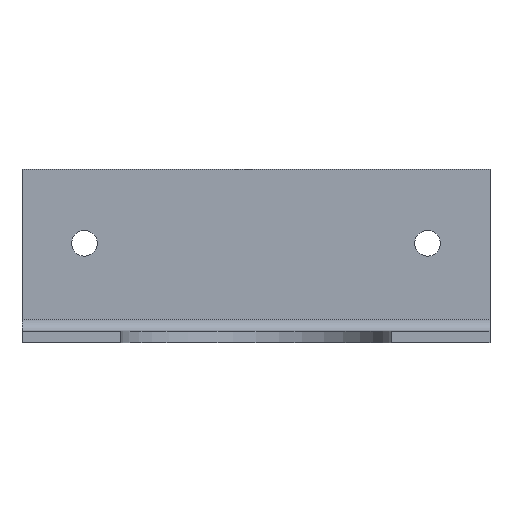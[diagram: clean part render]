
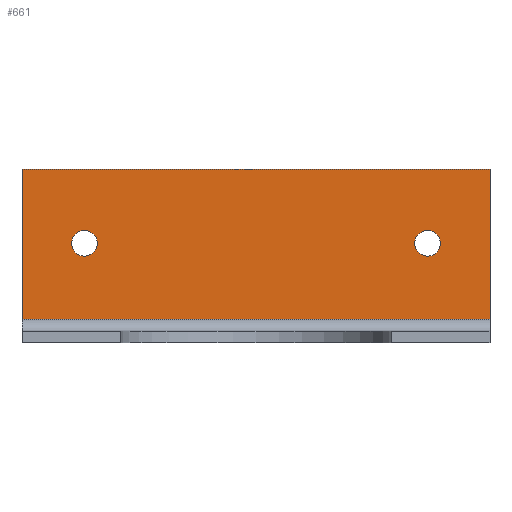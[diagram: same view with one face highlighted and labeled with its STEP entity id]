
A CAD part, front view. The second image highlights one B-rep face of the part: STEP entity #661.
In plain terms, the highlighted planar face has unit normal (0, -1, 0).
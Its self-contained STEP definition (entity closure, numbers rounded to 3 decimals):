
#473=CARTESIAN_POINT('',(47.3,61.5,25.5));
#474=VERTEX_POINT('',#473);
#475=CARTESIAN_POINT('',(44.0,61.5,25.5));
#476=DIRECTION('',(0.0,1.0,0.0));
#477=DIRECTION('',(-1.0,0.0,0.0));
#478=AXIS2_PLACEMENT_3D('',#475,#476,#477);
#479=CIRCLE('',#478,3.3);
#480=EDGE_CURVE('',#474,#474,#479,.T.);
#501=CARTESIAN_POINT('',(-40.7,61.5,25.5));
#502=VERTEX_POINT('',#501);
#503=CARTESIAN_POINT('',(-44.0,61.5,25.5));
#504=DIRECTION('',(0.0,1.0,0.0));
#505=DIRECTION('',(-1.0,0.0,0.0));
#506=AXIS2_PLACEMENT_3D('',#503,#504,#505);
#507=CIRCLE('',#506,3.3);
#508=EDGE_CURVE('',#502,#502,#507,.T.);
#564=CARTESIAN_POINT('',(-60.0,61.5,44.5));
#565=VERTEX_POINT('',#564);
#566=CARTESIAN_POINT('',(-60.0,61.5,6.));
#567=VERTEX_POINT('',#566);
#568=CARTESIAN_POINT('',(-60.0,61.5,44.5));
#569=DIRECTION('',(0.0,0.0,-1.0));
#570=VECTOR('',#569,38.5);
#571=LINE('',#568,#570);
#572=EDGE_CURVE('',#565,#567,#571,.T.);
#614=CARTESIAN_POINT('',(60.0,61.5,44.5));
#615=VERTEX_POINT('',#614);
#616=CARTESIAN_POINT('',(60.0,61.5,44.5));
#617=DIRECTION('',(-1.0,0.0,0.0));
#618=VECTOR('',#617,120.0);
#619=LINE('',#616,#618);
#620=EDGE_CURVE('',#615,#565,#619,.T.);
#632=CARTESIAN_POINT('',(60.0,61.5,44.5));
#633=DIRECTION('',(0.0,-1.0,0.0));
#634=DIRECTION('',(0.0,0.0,-1.0));
#635=AXIS2_PLACEMENT_3D('',#632,#633,#634);
#636=PLANE('',#635);
#637=CARTESIAN_POINT('',(60.0,61.5,6.));
#638=VERTEX_POINT('',#637);
#639=CARTESIAN_POINT('',(60.0,61.5,6.));
#640=DIRECTION('',(-1.0,0.0,0.0));
#641=VECTOR('',#640,120.0);
#642=LINE('',#639,#641);
#643=EDGE_CURVE('',#638,#567,#642,.T.);
#644=ORIENTED_EDGE('',*,*,#643,.F.);
#645=CARTESIAN_POINT('',(60.0,61.5,6.));
#646=DIRECTION('',(0.0,0.0,1.0));
#647=VECTOR('',#646,38.5);
#648=LINE('',#645,#647);
#649=EDGE_CURVE('',#638,#615,#648,.T.);
#650=ORIENTED_EDGE('',*,*,#649,.T.);
#651=ORIENTED_EDGE('',*,*,#620,.T.);
#652=ORIENTED_EDGE('',*,*,#572,.T.);
#653=EDGE_LOOP('',(#644,#650,#651,#652));
#654=FACE_OUTER_BOUND('',#653,.T.);
#655=ORIENTED_EDGE('',*,*,#480,.T.);
#656=EDGE_LOOP('',(#655));
#657=FACE_BOUND('',#656,.T.);
#658=ORIENTED_EDGE('',*,*,#508,.T.);
#659=EDGE_LOOP('',(#658));
#660=FACE_BOUND('',#659,.T.);
#661=ADVANCED_FACE('',(#654,#657,#660),#636,.T.);
